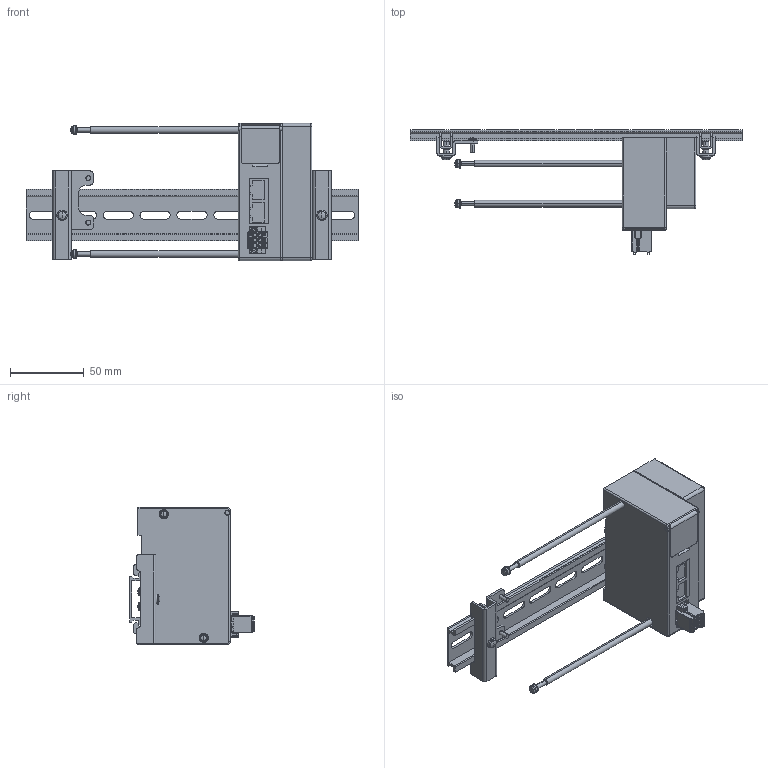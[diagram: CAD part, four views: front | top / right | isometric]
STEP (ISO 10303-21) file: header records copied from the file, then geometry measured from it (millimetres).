
FILE_DESCRIPTION( (''), '2;1');
FILE_NAME ('YS8EK3-5-DR.stp','2022-12-01T14:38:51',(''),(''),'spGate 12.6.6','','');
FILE_SCHEMA (('AUTOMOTIVE_DESIGN'));
Length unit declared in the file: millimetre
Products named in the file (4): Assembly; YS8EK3-5-DR-prt0; YS8EK3-5-DR-prt1; YS8EK3-5-DR-prt2
Assembly tree (4 placements, depth 2):
  Assembly
    YS8EK3-5-DR-prt0
    YS8EK3-5-DR-prt1
    YS8EK3-5-DR-prt2  x2
Bounding box: 225 x 84.4 x 93 mm (x, y, z)
Volume: 283147.7 mm3; surface area: 69473.7 mm2
Topology: 4 solids, 4 shells, 1027 faces, 2703 edges, 1737 vertices
Faces by surface type: plane 599, cylinder 330, bspline 82, sphere 16
Entity records: 47128 total; most frequent: CARTESIAN_POINT 6353, ORIENTED_EDGE 4684, DIRECTION 4442, COLOUR_RGB 3241, PRESENTATION_STYLE_ASSIGNMENT 3241, STYLED_ITEM 3241, EDGE_CURVE 2342, DRAUGHTING_PRE_DEFINED_CURVE_FONT 2342
